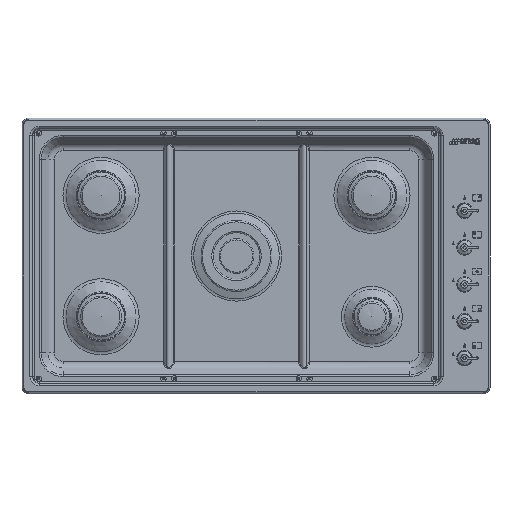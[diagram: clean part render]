
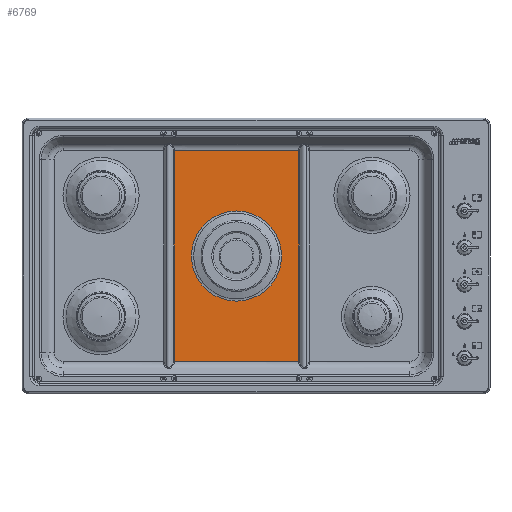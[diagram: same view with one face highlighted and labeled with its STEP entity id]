
A CAD part, top view. The second image highlights one B-rep face of the part: STEP entity #6769.
In plain terms, the highlighted planar face has unit normal (0, 0, 1).
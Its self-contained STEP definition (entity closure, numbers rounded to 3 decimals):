
#1356=LINE('',#34063,#2371);
#1364=LINE('',#34387,#2379);
#1380=LINE('',#35211,#2395);
#1381=LINE('',#35212,#2396);
#2371=VECTOR('',#27059,1.);
#2379=VECTOR('',#27111,1.);
#2395=VECTOR('',#27201,1.);
#2396=VECTOR('',#27202,1.);
#5744=FACE_BOUND('',#9701,.T.);
#5745=FACE_BOUND('',#9702,.T.);
#6769=ADVANCED_FACE('',(#5744,#5745),#7792,.F.);
#7792=PLANE('',#22953);
#9701=EDGE_LOOP('',(#12907,#12908,#12909,#12910));
#9702=EDGE_LOOP('',(#12911));
#12907=ORIENTED_EDGE('',*,*,#19077,.F.);
#12908=ORIENTED_EDGE('',*,*,#19181,.F.);
#12909=ORIENTED_EDGE('',*,*,#19112,.F.);
#12910=ORIENTED_EDGE('',*,*,#19182,.F.);
#12911=ORIENTED_EDGE('',*,*,#19183,.F.);
#16980=VERTEX_POINT('',#34062);
#16981=VERTEX_POINT('',#34064);
#17004=VERTEX_POINT('',#34388);
#17005=VERTEX_POINT('',#34389);
#17051=VERTEX_POINT('',#35214);
#19077=EDGE_CURVE('',#16980,#16981,#1356,.T.);
#19112=EDGE_CURVE('',#17004,#17005,#1364,.T.);
#19181=EDGE_CURVE('',#17005,#16980,#1380,.T.);
#19182=EDGE_CURVE('',#16981,#17004,#1381,.T.);
#19183=EDGE_CURVE('',#17051,#17051,#21164,.T.);
#21164=CIRCLE('',#22952,83.19);
#22952=AXIS2_PLACEMENT_3D('',#35213,#27203,#27204);
#22953=AXIS2_PLACEMENT_3D('',#35215,#27205,#27206);
#27059=DIRECTION('',(1.,0.,0.));
#27111=DIRECTION('',(-1.,0.,0.));
#27201=DIRECTION('',(0.,1.,0.));
#27202=DIRECTION('',(0.,-1.,0.));
#27203=DIRECTION('',(0.,0.,1.));
#27204=DIRECTION('',(-1.,0.,0.));
#27205=DIRECTION('',(0.,0.,-1.));
#27206=DIRECTION('',(-1.,0.,0.));
#34062=CARTESIAN_POINT('',(187.75,5.772,-16.));
#34063=CARTESIAN_POINT('',(293.936,5.772,-16.));
#34064=CARTESIAN_POINT('',(417.123,5.772,-16.));
#34387=CARTESIAN_POINT('',(-11.064,-383.2,-16.));
#34388=CARTESIAN_POINT('',(417.123,-383.2,-16.));
#34389=CARTESIAN_POINT('',(187.75,-383.2,-16.));
#35211=CARTESIAN_POINT('',(187.75,-215.172,-16.));
#35212=CARTESIAN_POINT('',(417.123,-187.172,-16.));
#35213=CARTESIAN_POINT('',(302.436,-188.714,-16.));
#35214=CARTESIAN_POINT('',(385.626,-188.714,-16.));
#35215=CARTESIAN_POINT('',(175.8,45.758,-16.));
